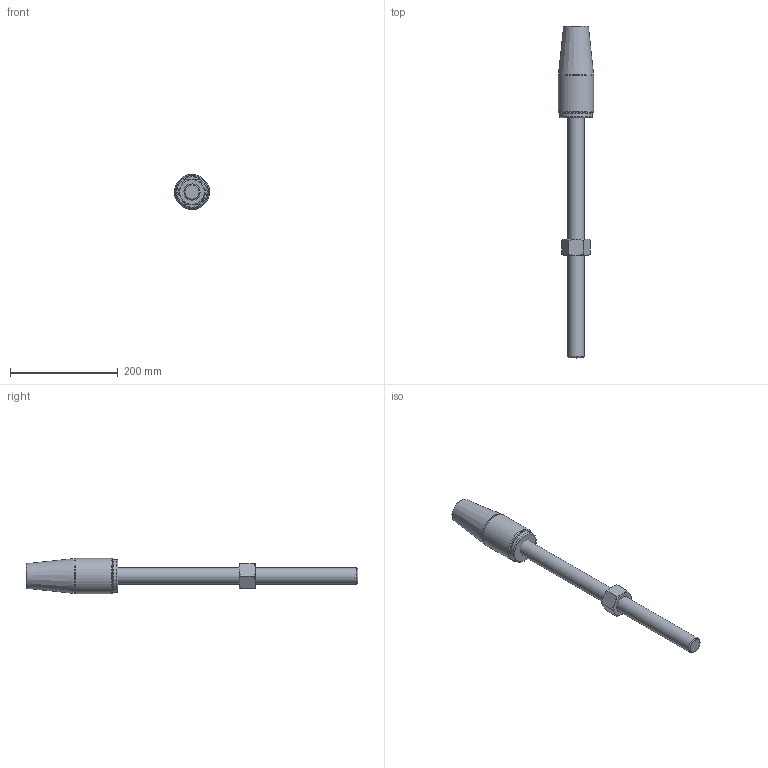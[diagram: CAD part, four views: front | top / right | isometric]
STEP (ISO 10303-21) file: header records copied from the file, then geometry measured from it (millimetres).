
FILE_DESCRIPTION(/* description */ (''),/* implementation_level */ '2;1');
FILE_NAME(/* name */ 'D:\Clienti\Redaelli (inventor)\CYB\STEP\Arrangement\CYB020 52 061 0.stp',/* time_stamp */ '2021-05-08T14:29:27+02:00',/* author */ ('fabri'),/* organization */ (''),/* preprocessor_version */ 'ST-DEVELOPER v16.13',/* originating_system */ 'Autodesk Inventor 2018',/* authorisation */ '');
FILE_SCHEMA (('AUTOMOTIVE_DESIGN { 1 0 10303 214 3 1 1 }'));
Length unit declared in the file: millimetre
Products named in the file (5): CYB012-52-061-0; RNT020 41 051 0_ROD; UNI 5587 - M30; CCY021-51-061-0_BUSH; CCY021-51-061-0
Assembly tree (4 placements, depth 2):
  CYB012-52-061-0
    RNT020 41 051 0_ROD
    UNI 5587 - M30
    CCY021-51-061-0_BUSH
    CCY021-51-061-0
Bounding box: 64.94 x 615 x 64.94 mm (x, y, z)
Volume: 909976.3 mm3; surface area: 109857.8 mm2
Topology: 4 solids, 4 shells, 684 faces, 1821 edges, 1207 vertices
Faces by surface type: bspline 376, plane 278, cone 19, cylinder 7, torus 4
Full cylindrical faces by diameter (mm): 26.211 x2, 30 x1, 39 x1, 45 x1, 60 x1, 65 x1
Entity records: 23149 total; most frequent: CARTESIAN_POINT 8650, ORIENTED_EDGE 3602, EDGE_CURVE 1801, DIRECTION 1699, VERTEX_POINT 1205, LINE 987, VECTOR 987, EDGE_LOOP 768
